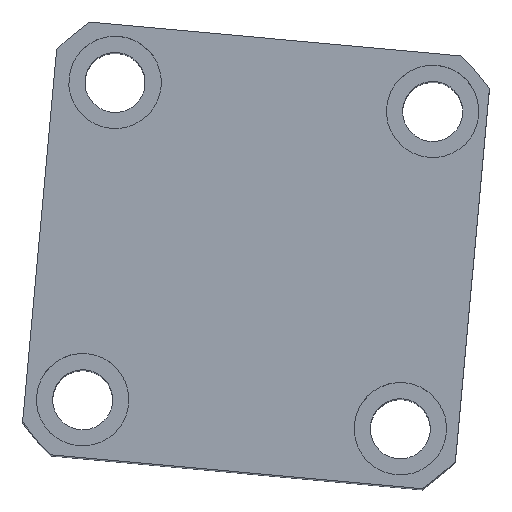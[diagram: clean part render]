
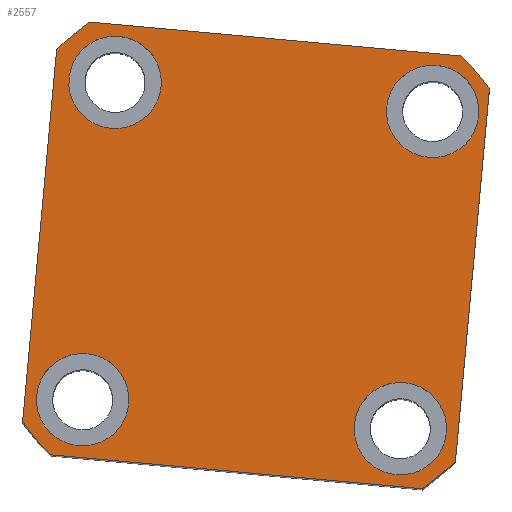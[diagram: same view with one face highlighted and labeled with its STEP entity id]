
A CAD part, top view. The second image highlights one B-rep face of the part: STEP entity #2557.
In plain terms, the highlighted planar face has unit normal (0, 0, 1) as drawn and (0, 0, -1) by its records, which use the part's own axes.
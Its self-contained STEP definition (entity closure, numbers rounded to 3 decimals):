
#68 = AXIS2_PLACEMENT_3D ( 'NONE', #15228, #4838, #16922 ) ;
#329 = CIRCLE ( 'NONE', #18840, 10. ) ;
#347 = VECTOR ( 'NONE', #14827, 1000. ) ;
#433 = DIRECTION ( 'NONE',  ( -1., 0., 0. ) ) ;
#488 = CARTESIAN_POINT ( 'NONE',  ( 0., 0., 0. ) ) ;
#594 = DIRECTION ( 'NONE',  ( 0., 0., -1. ) ) ;
#624 = CARTESIAN_POINT ( 'NONE',  ( 25.23, -34.5, 0. ) ) ;
#876 = ORIENTED_EDGE ( 'NONE', *, *, #22440, .F. ) ;
#997 = LINE ( 'NONE', #18927, #14354 ) ;
#1131 = CARTESIAN_POINT ( 'NONE',  ( 0., 0., 0. ) ) ;
#1184 = VECTOR ( 'NONE', #17814, 1000. ) ;
#1437 = EDGE_CURVE ( 'NONE', #17252, #15620, #6620, .T. ) ;
#1509 = VERTEX_POINT ( 'NONE', #14851 ) ;
#1716 = EDGE_CURVE ( 'NONE', #15620, #17252, #18723, .T. ) ;
#1733 = CIRCLE ( 'NONE', #1860, 10. ) ;
#1742 = PLANE ( 'NONE',  #7527 ) ;
#1860 = AXIS2_PLACEMENT_3D ( 'NONE', #21177, #10887, #433 ) ;
#1995 = ORIENTED_EDGE ( 'NONE', *, *, #13120, .F. ) ;
#2271 = DIRECTION ( 'NONE',  ( 1., 0., 0. ) ) ;
#2287 = VERTEX_POINT ( 'NONE', #6097 ) ;
#2557 = ADVANCED_FACE ( 'NONE', ( #4133, #22482, #4684, #21946, #17363 ), #1742, .F. ) ;
#2923 = DIRECTION ( 'NONE',  ( 1., 0., 0. ) ) ;
#3196 = CARTESIAN_POINT ( 'NONE',  ( -47., 47., 0. ) ) ;
#3530 = DIRECTION ( 'NONE',  ( 1., 0., 0. ) ) ;
#3711 = CARTESIAN_POINT ( 'NONE',  ( 0., 0., 0. ) ) ;
#3736 = VERTEX_POINT ( 'NONE', #21480 ) ;
#3743 = CARTESIAN_POINT ( 'NONE',  ( -24.5, 34.5, 0. ) ) ;
#3752 = AXIS2_PLACEMENT_3D ( 'NONE', #19399, #9108, #21119 ) ;
#3765 = EDGE_LOOP ( 'NONE', ( #19557, #5975 ) ) ;
#4133 = FACE_BOUND ( 'NONE', #17532, .T. ) ;
#4458 = VERTEX_POINT ( 'NONE', #14306 ) ;
#4563 = EDGE_CURVE ( 'NONE', #10814, #1509, #21345, .T. ) ;
#4684 = FACE_BOUND ( 'NONE', #21305, .T. ) ;
#4808 = CIRCLE ( 'NONE', #12389, 62. ) ;
#4838 = DIRECTION ( 'NONE',  ( 0., 0., -1. ) ) ;
#4999 = DIRECTION ( 'NONE',  ( -1., 0., 0. ) ) ;
#5109 = DIRECTION ( 'NONE',  ( 0., 0., -1. ) ) ;
#5465 = DIRECTION ( 'NONE',  ( 1., 0., 0. ) ) ;
#5649 = CIRCLE ( 'NONE', #68, 10. ) ;
#5826 = EDGE_CURVE ( 'NONE', #21738, #4458, #16257, .T. ) ;
#5944 = EDGE_CURVE ( 'NONE', #10038, #8276, #6538, .T. ) ;
#5975 = ORIENTED_EDGE ( 'NONE', *, *, #1437, .F. ) ;
#6068 = AXIS2_PLACEMENT_3D ( 'NONE', #8579, #15379, #4999 ) ;
#6097 = CARTESIAN_POINT ( 'NONE',  ( 47., 40.435, 0. ) ) ;
#6121 = CARTESIAN_POINT ( 'NONE',  ( -47., -40.435, 0. ) ) ;
#6217 = CARTESIAN_POINT ( 'NONE',  ( 40.435, 47., 0. ) ) ;
#6309 = AXIS2_PLACEMENT_3D ( 'NONE', #15493, #5109, #17178 ) ;
#6538 = CIRCLE ( 'NONE', #12092, 62. ) ;
#6620 = CIRCLE ( 'NONE', #10001, 10. ) ;
#6933 = DIRECTION ( 'NONE',  ( 0., 0., 1. ) ) ;
#7044 = EDGE_LOOP ( 'NONE', ( #22300, #17048, #11680, #9513, #20450, #19849, #14640, #11050 ) ) ;
#7156 = VERTEX_POINT ( 'NONE', #6217 ) ;
#7366 = CARTESIAN_POINT ( 'NONE',  ( -33.77, -34.5, 0. ) ) ;
#7450 = AXIS2_PLACEMENT_3D ( 'NONE', #11052, #594, #12812 ) ;
#7527 = AXIS2_PLACEMENT_3D ( 'NONE', #12180, #13930, #3530 ) ;
#7765 = ORIENTED_EDGE ( 'NONE', *, *, #11454, .F. ) ;
#7780 = CARTESIAN_POINT ( 'NONE',  ( -40.435, 47., 0. ) ) ;
#7949 = AXIS2_PLACEMENT_3D ( 'NONE', #488, #12708, #2271 ) ;
#8276 = VERTEX_POINT ( 'NONE', #18309 ) ;
#8416 = CARTESIAN_POINT ( 'NONE',  ( 34.5, 34.5, 0. ) ) ;
#8579 = CARTESIAN_POINT ( 'NONE',  ( 34.5, 34.5, 0. ) ) ;
#8729 = EDGE_CURVE ( 'NONE', #20103, #3736, #21028, .T. ) ;
#9104 = DIRECTION ( 'NONE',  ( -1., 0., 0. ) ) ;
#9108 = DIRECTION ( 'NONE',  ( 0., 0., -1. ) ) ;
#9166 = DIRECTION ( 'NONE',  ( 0., 0., -1. ) ) ;
#9245 = DIRECTION ( 'NONE',  ( -1., 0., 0. ) ) ;
#9343 = EDGE_CURVE ( 'NONE', #7156, #17581, #997, .T. ) ;
#9513 = ORIENTED_EDGE ( 'NONE', *, *, #17687, .F. ) ;
#10001 = AXIS2_PLACEMENT_3D ( 'NONE', #8416, #9166, #9245 ) ;
#10038 = VERTEX_POINT ( 'NONE', #6121 ) ;
#10338 = CARTESIAN_POINT ( 'NONE',  ( 24.5, 34.5, 0. ) ) ;
#10471 = LINE ( 'NONE', #12649, #1184 ) ;
#10814 = VERTEX_POINT ( 'NONE', #17259 ) ;
#10887 = DIRECTION ( 'NONE',  ( 0., 0., -1. ) ) ;
#11050 = ORIENTED_EDGE ( 'NONE', *, *, #9343, .F. ) ;
#11052 = CARTESIAN_POINT ( 'NONE',  ( -34.5, 34.5, 0. ) ) ;
#11262 = ORIENTED_EDGE ( 'NONE', *, *, #21380, .F. ) ;
#11308 = EDGE_CURVE ( 'NONE', #17581, #21710, #19935, .T. ) ;
#11317 = CIRCLE ( 'NONE', #7450, 10. ) ;
#11454 = EDGE_CURVE ( 'NONE', #18467, #17225, #5649, .T. ) ;
#11680 = ORIENTED_EDGE ( 'NONE', *, *, #4563, .F. ) ;
#12092 = AXIS2_PLACEMENT_3D ( 'NONE', #17249, #6933, #18955 ) ;
#12180 = CARTESIAN_POINT ( 'NONE',  ( 0., 0., 0. ) ) ;
#12184 = EDGE_LOOP ( 'NONE', ( #7765, #876 ) ) ;
#12389 = AXIS2_PLACEMENT_3D ( 'NONE', #3711, #15834, #5465 ) ;
#12649 = CARTESIAN_POINT ( 'NONE',  ( 47., 47., 0. ) ) ;
#12708 = DIRECTION ( 'NONE',  ( 0., 0., 1. ) ) ;
#12740 = ORIENTED_EDGE ( 'NONE', *, *, #5826, .F. ) ;
#12812 = DIRECTION ( 'NONE',  ( -1., 0., 0. ) ) ;
#12839 = CARTESIAN_POINT ( 'NONE',  ( -47., 40.435, 0. ) ) ;
#13120 = EDGE_CURVE ( 'NONE', #3736, #20103, #11317, .T. ) ;
#13166 = LINE ( 'NONE', #3196, #14231 ) ;
#13289 = ORIENTED_EDGE ( 'NONE', *, *, #8729, .F. ) ;
#13353 = DIRECTION ( 'NONE',  ( 0., 0., 1. ) ) ;
#13930 = DIRECTION ( 'NONE',  ( 0., 0., 1. ) ) ;
#14217 = CARTESIAN_POINT ( 'NONE',  ( 44.5, 34.5, 0. ) ) ;
#14231 = VECTOR ( 'NONE', #15349, 1000. ) ;
#14306 = CARTESIAN_POINT ( 'NONE',  ( 45.23, -34.5, 0. ) ) ;
#14354 = VECTOR ( 'NONE', #20732, 1000. ) ;
#14429 = EDGE_CURVE ( 'NONE', #2287, #7156, #4808, .T. ) ;
#14640 = ORIENTED_EDGE ( 'NONE', *, *, #11308, .F. ) ;
#14827 = DIRECTION ( 'NONE',  ( 1., 0., 0. ) ) ;
#14832 = LINE ( 'NONE', #18234, #347 ) ;
#14851 = CARTESIAN_POINT ( 'NONE',  ( 47., -40.435, 0. ) ) ;
#15228 = CARTESIAN_POINT ( 'NONE',  ( -33.77, -34.5, 0. ) ) ;
#15349 = DIRECTION ( 'NONE',  ( 0., -1., 0. ) ) ;
#15379 = DIRECTION ( 'NONE',  ( 0., 0., -1. ) ) ;
#15493 = CARTESIAN_POINT ( 'NONE',  ( 35.23, -34.5, 0. ) ) ;
#15620 = VERTEX_POINT ( 'NONE', #10338 ) ;
#15834 = DIRECTION ( 'NONE',  ( 0., 0., 1. ) ) ;
#16257 = CIRCLE ( 'NONE', #6309, 10. ) ;
#16506 = CARTESIAN_POINT ( 'NONE',  ( -43.77, -34.5, 0. ) ) ;
#16922 = DIRECTION ( 'NONE',  ( -1., 0., 0. ) ) ;
#17048 = ORIENTED_EDGE ( 'NONE', *, *, #21419, .F. ) ;
#17178 = DIRECTION ( 'NONE',  ( -1., 0., 0. ) ) ;
#17225 = VERTEX_POINT ( 'NONE', #21007 ) ;
#17249 = CARTESIAN_POINT ( 'NONE',  ( 0., 0., 0. ) ) ;
#17252 = VERTEX_POINT ( 'NONE', #14217 ) ;
#17259 = CARTESIAN_POINT ( 'NONE',  ( 40.435, -47., 0. ) ) ;
#17363 = FACE_OUTER_BOUND ( 'NONE', #7044, .T. ) ;
#17532 = EDGE_LOOP ( 'NONE', ( #12740, #11262 ) ) ;
#17581 = VERTEX_POINT ( 'NONE', #7780 ) ;
#17687 = EDGE_CURVE ( 'NONE', #8276, #10814, #14832, .T. ) ;
#17814 = DIRECTION ( 'NONE',  ( 0., 1., 0. ) ) ;
#17966 = AXIS2_PLACEMENT_3D ( 'NONE', #1131, #13353, #2923 ) ;
#18234 = CARTESIAN_POINT ( 'NONE',  ( -47., -47., 0. ) ) ;
#18309 = CARTESIAN_POINT ( 'NONE',  ( -40.435, -47., 0. ) ) ;
#18467 = VERTEX_POINT ( 'NONE', #16506 ) ;
#18723 = CIRCLE ( 'NONE', #6068, 10. ) ;
#18840 = AXIS2_PLACEMENT_3D ( 'NONE', #7366, #19394, #9104 ) ;
#18927 = CARTESIAN_POINT ( 'NONE',  ( -47., 47., 0. ) ) ;
#18955 = DIRECTION ( 'NONE',  ( 1., 0., 0. ) ) ;
#19394 = DIRECTION ( 'NONE',  ( 0., 0., -1. ) ) ;
#19399 = CARTESIAN_POINT ( 'NONE',  ( -34.5, 34.5, 0. ) ) ;
#19557 = ORIENTED_EDGE ( 'NONE', *, *, #1716, .F. ) ;
#19849 = ORIENTED_EDGE ( 'NONE', *, *, #20686, .F. ) ;
#19935 = CIRCLE ( 'NONE', #17966, 62. ) ;
#20103 = VERTEX_POINT ( 'NONE', #3743 ) ;
#20450 = ORIENTED_EDGE ( 'NONE', *, *, #5944, .F. ) ;
#20686 = EDGE_CURVE ( 'NONE', #21710, #10038, #13166, .T. ) ;
#20732 = DIRECTION ( 'NONE',  ( -1., 0., 0. ) ) ;
#21007 = CARTESIAN_POINT ( 'NONE',  ( -23.77, -34.5, 0. ) ) ;
#21028 = CIRCLE ( 'NONE', #3752, 10. ) ;
#21119 = DIRECTION ( 'NONE',  ( -1., 0., 0. ) ) ;
#21177 = CARTESIAN_POINT ( 'NONE',  ( 35.23, -34.5, 0. ) ) ;
#21305 = EDGE_LOOP ( 'NONE', ( #1995, #13289 ) ) ;
#21345 = CIRCLE ( 'NONE', #7949, 62. ) ;
#21380 = EDGE_CURVE ( 'NONE', #4458, #21738, #1733, .T. ) ;
#21419 = EDGE_CURVE ( 'NONE', #1509, #2287, #10471, .T. ) ;
#21480 = CARTESIAN_POINT ( 'NONE',  ( -44.5, 34.5, 0. ) ) ;
#21710 = VERTEX_POINT ( 'NONE', #12839 ) ;
#21738 = VERTEX_POINT ( 'NONE', #624 ) ;
#21946 = FACE_BOUND ( 'NONE', #3765, .T. ) ;
#22300 = ORIENTED_EDGE ( 'NONE', *, *, #14429, .F. ) ;
#22440 = EDGE_CURVE ( 'NONE', #17225, #18467, #329, .T. ) ;
#22482 = FACE_BOUND ( 'NONE', #12184, .T. ) ;
